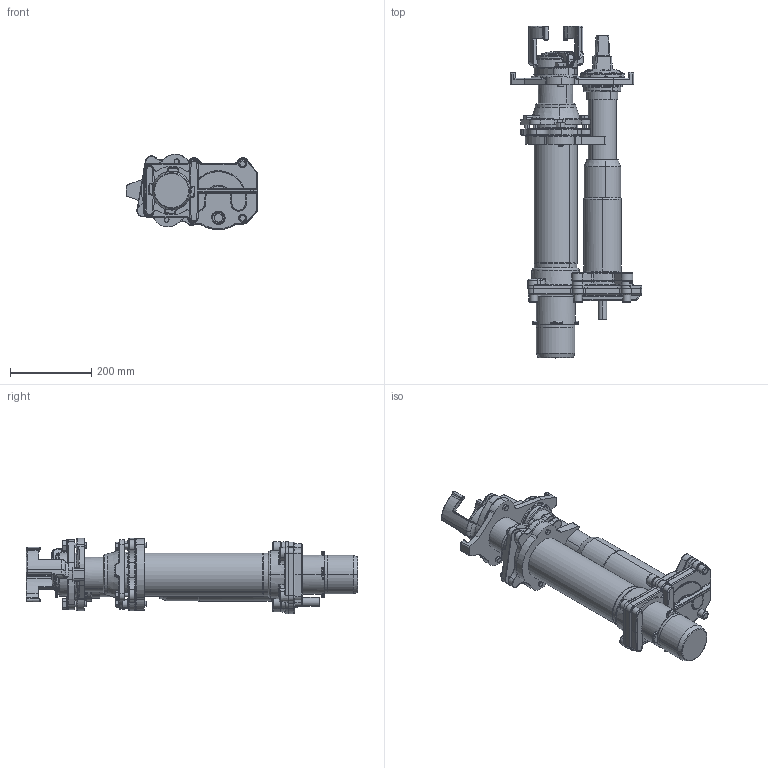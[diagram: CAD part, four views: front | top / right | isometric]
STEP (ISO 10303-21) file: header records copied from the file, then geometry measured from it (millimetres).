
FILE_DESCRIPTION (( 'STEP AP203' ), '1' );
FILE_NAME ('H-UFH RD1,0 Spitz_203.STEP', '2019-05-06T11:43:45', ( '' ), ( '' ), 'SwSTEP 2.0', 'SolidWorks 2019', '' );
FILE_SCHEMA (( 'CONFIG_CONTROL_DESIGN' ));
Length unit declared in the file: millimetre
Products named in the file (1): H-UFH RD1,0 Spitz_203
Bounding box: 324.28 x 817.23 x 185.36 mm (x, y, z)
Volume: 11786834.3 mm3; surface area: 791446 mm2
Topology: 2 solids, 2 shells, 3084 faces, 8045 edges, 4850 vertices
Faces by surface type: bspline 970, cylinder 895, plane 668, torus 325, cone 177, sphere 49
Entity records: 153172 total; most frequent: CARTESIAN_POINT 85287, ORIENTED_EDGE 15854, DIRECTION 12326, EDGE_CURVE 7927, AXIS2_PLACEMENT_3D 5101, VERTEX_POINT 4835, EDGE_LOOP 3170, FACE_OUTER_BOUND 3084
